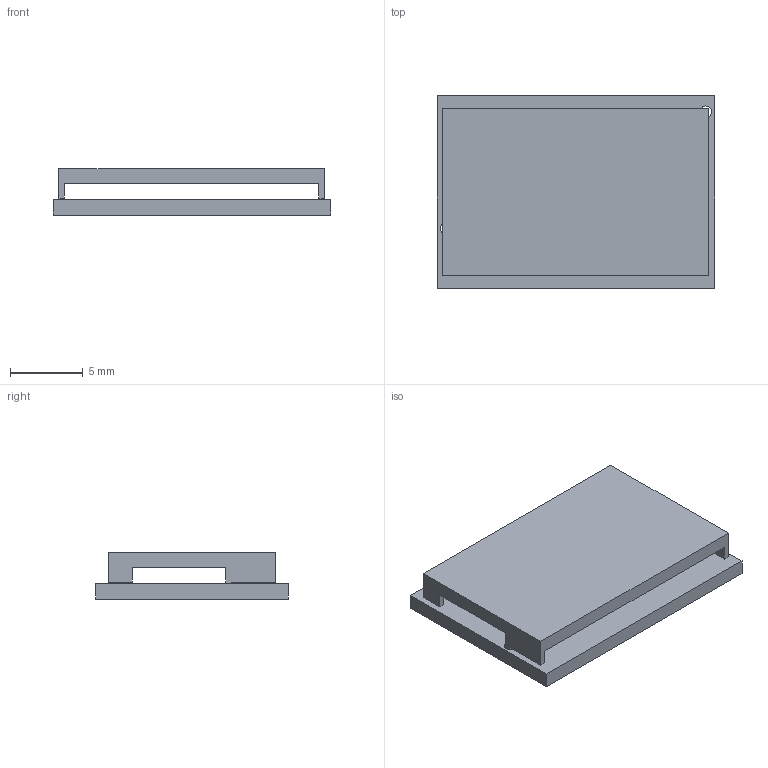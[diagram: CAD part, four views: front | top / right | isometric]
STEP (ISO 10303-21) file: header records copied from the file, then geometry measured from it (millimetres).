
FILE_DESCRIPTION(('Open CASCADE Model'),'2;1');
FILE_NAME('Open CASCADE Shape Model','2013-06-20T15:26:57',('Author'),( 'Open CASCADE'),'Open CASCADE STEP processor 6.2','Open CASCADE 6.2' ,'Unknown');
FILE_SCHEMA(('AUTOMOTIVE_DESIGN { 1 0 10303 214 1 1 1 1 }'));
Length unit declared in the file: millimetre
Products named in the file (4): PCB; Board; SH1; deRFmini_Short-RF-Shielding
Assembly tree (3 placements, depth 3):
  PCB
    Board
    SH1
      deRFmini_Short-RF-Shielding
Bounding box: 19 x 13.2 x 3.17 mm (x, y, z)
Volume: 362.3 mm3; surface area: 1104.3 mm2
Topology: 2 solids, 2 shells, 35 faces, 93 edges, 62 vertices
Faces by surface type: plane 32, cylinder 3
Full cylindrical faces by diameter (mm): 0.2 x1, 0.8 x2
Entity records: 2376 total; most frequent: CARTESIAN_POINT 380, DIRECTION 363, LINE 267, VECTOR 267, ORIENTED_EDGE 186, PCURVE 186, DEFINITIONAL_REPRESENTATION 186, EDGE_CURVE 93
